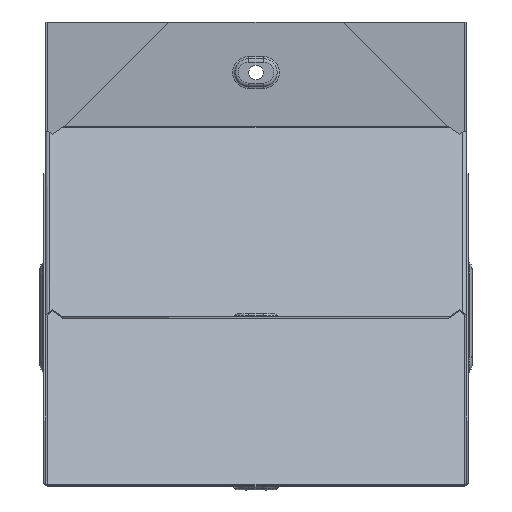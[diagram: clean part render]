
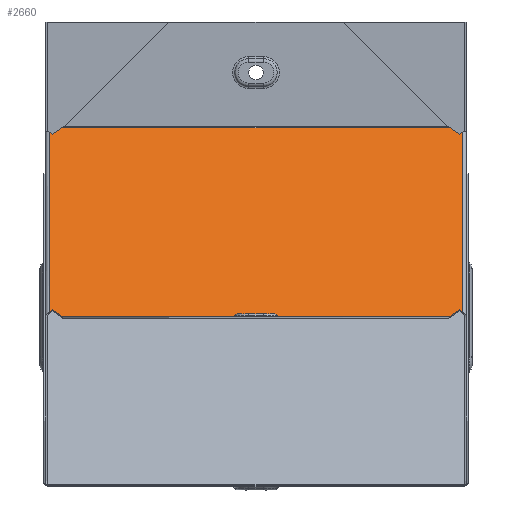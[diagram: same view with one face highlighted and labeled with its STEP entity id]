
A CAD part, front view. The second image highlights one B-rep face of the part: STEP entity #2660.
In plain terms, the highlighted planar face has unit normal (0, -0.707, 0.707).
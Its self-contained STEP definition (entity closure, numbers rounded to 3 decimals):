
#107 = LINE ( 'NONE', #6194, #894 ) ;
#227 = LINE ( 'NONE', #5780, #1912 ) ;
#281 = DIRECTION ( 'NONE',  ( -0.707, -0.5, -0.5 ) ) ;
#322 = EDGE_LOOP ( 'NONE', ( #4151, #2457, #3748, #3824, #2782, #2393, #6978, #5563, #5704, #5831, #2704, #7515 ) ) ;
#511 = CARTESIAN_POINT ( 'NONE',  ( 92.181, -19.707, -69.707 ) ) ;
#611 = LINE ( 'NONE', #3172, #5500 ) ;
#633 = LINE ( 'NONE', #8142, #1924 ) ;
#672 = DIRECTION ( 'NONE',  ( -1., 0., 0. ) ) ;
#894 = VECTOR ( 'NONE', #5572, 1000. ) ;
#908 = AXIS2_PLACEMENT_3D ( 'NONE', #5554, #6119, #6751 ) ;
#975 = VERTEX_POINT ( 'NONE', #2876 ) ;
#1084 = CARTESIAN_POINT ( 'NONE',  ( -96.592, 66.588, 16.588 ) ) ;
#1089 = PLANE ( 'NONE',  #908 ) ;
#1105 = CARTESIAN_POINT ( 'NONE',  ( -96.592, -16.588, -66.588 ) ) ;
#1297 = EDGE_CURVE ( 'NONE', #6496, #4744, #5458, .T. ) ;
#1320 = EDGE_CURVE ( 'NONE', #6496, #6171, #2548, .T. ) ;
#1508 = VECTOR ( 'NONE', #3317, 1000. ) ;
#1662 = CARTESIAN_POINT ( 'NONE',  ( -41.546, -55.512, -105.512 ) ) ;
#1912 = VECTOR ( 'NONE', #672, 1000. ) ;
#1924 = VECTOR ( 'NONE', #2371, 1000. ) ;
#2120 = LINE ( 'NONE', #7009, #4218 ) ;
#2371 = DIRECTION ( 'NONE',  ( 0.707, -0.5, -0.5 ) ) ;
#2393 = ORIENTED_EDGE ( 'NONE', *, *, #8237, .T. ) ;
#2454 = DIRECTION ( 'NONE',  ( -0.707, 0.5, 0.5 ) ) ;
#2457 = ORIENTED_EDGE ( 'NONE', *, *, #3879, .T. ) ;
#2548 = LINE ( 'NONE', #3338, #3733 ) ;
#2610 = DIRECTION ( 'NONE',  ( 0.707, 0.5, 0.5 ) ) ;
#2646 = CARTESIAN_POINT ( 'NONE',  ( 41.546, 105.512, 55.512 ) ) ;
#2658 = CARTESIAN_POINT ( 'NONE',  ( 96.592, -16.588, -66.588 ) ) ;
#2660 = ADVANCED_FACE ( 'NONE', ( #4339 ), #1089, .F. ) ;
#2704 = ORIENTED_EDGE ( 'NONE', *, *, #6552, .T. ) ;
#2782 = ORIENTED_EDGE ( 'NONE', *, *, #6584, .T. ) ;
#2876 = CARTESIAN_POINT ( 'NONE',  ( 98.2, -17.724, -67.724 ) ) ;
#3008 = EDGE_CURVE ( 'NONE', #4845, #7096, #3295, .T. ) ;
#3172 = CARTESIAN_POINT ( 'NONE',  ( 98.2, 70., 20. ) ) ;
#3295 = LINE ( 'NONE', #4668, #5628 ) ;
#3317 = DIRECTION ( 'NONE',  ( -0.707, 0.5, 0.5 ) ) ;
#3338 = CARTESIAN_POINT ( 'NONE',  ( 41.546, -55.512, -105.512 ) ) ;
#3542 = DIRECTION ( 'NONE',  ( -0.707, -0.5, -0.5 ) ) ;
#3596 = CARTESIAN_POINT ( 'NONE',  ( -41.546, 105.512, 55.512 ) ) ;
#3682 = EDGE_CURVE ( 'NONE', #7527, #4666, #227, .T. ) ;
#3686 = LINE ( 'NONE', #2646, #1508 ) ;
#3733 = VECTOR ( 'NONE', #2610, 1000. ) ;
#3748 = ORIENTED_EDGE ( 'NONE', *, *, #3682, .T. ) ;
#3764 = DIRECTION ( 'NONE',  ( 0., -0.707, -0.707 ) ) ;
#3819 = VECTOR ( 'NONE', #5470, 1000. ) ;
#3824 = ORIENTED_EDGE ( 'NONE', *, *, #5424, .T. ) ;
#3879 = EDGE_CURVE ( 'NONE', #7096, #7527, #3686, .T. ) ;
#4087 = VECTOR ( 'NONE', #4602, 1000. ) ;
#4151 = ORIENTED_EDGE ( 'NONE', *, *, #3008, .T. ) ;
#4195 = EDGE_CURVE ( 'NONE', #5010, #4744, #4306, .T. ) ;
#4218 = VECTOR ( 'NONE', #2454, 1000. ) ;
#4306 = LINE ( 'NONE', #1662, #4087 ) ;
#4339 = FACE_OUTER_BOUND ( 'NONE', #322, .T. ) ;
#4356 = VECTOR ( 'NONE', #6544, 1000. ) ;
#4455 = CARTESIAN_POINT ( 'NONE',  ( -98.2, -17.724, -67.724 ) ) ;
#4602 = DIRECTION ( 'NONE',  ( 0.707, -0.5, -0.5 ) ) ;
#4645 = EDGE_CURVE ( 'NONE', #4845, #975, #611, .T. ) ;
#4666 = VERTEX_POINT ( 'NONE', #8183 ) ;
#4668 = CARTESIAN_POINT ( 'NONE',  ( 100.299, 69.208, 19.208 ) ) ;
#4744 = VERTEX_POINT ( 'NONE', #6485 ) ;
#4764 = CARTESIAN_POINT ( 'NONE',  ( 98.2, 67.724, 17.724 ) ) ;
#4773 = CARTESIAN_POINT ( 'NONE',  ( -98.2, 67.724, 17.724 ) ) ;
#4845 = VERTEX_POINT ( 'NONE', #4764 ) ;
#4848 = CARTESIAN_POINT ( 'NONE',  ( -98.2, 70., 20. ) ) ;
#5010 = VERTEX_POINT ( 'NONE', #1105 ) ;
#5023 = EDGE_CURVE ( 'NONE', #5654, #5010, #107, .T. ) ;
#5038 = VECTOR ( 'NONE', #3542, 1000. ) ;
#5054 = CARTESIAN_POINT ( 'NONE',  ( 92.181, 69.707, 19.707 ) ) ;
#5077 = VERTEX_POINT ( 'NONE', #1084 ) ;
#5174 = CARTESIAN_POINT ( 'NONE',  ( 98.2, -19.707, -69.707 ) ) ;
#5424 = EDGE_CURVE ( 'NONE', #4666, #5077, #7837, .T. ) ;
#5445 = VERTEX_POINT ( 'NONE', #4773 ) ;
#5458 = LINE ( 'NONE', #5174, #4356 ) ;
#5470 = DIRECTION ( 'NONE',  ( 0., -0.707, -0.707 ) ) ;
#5500 = VECTOR ( 'NONE', #3764, 1000. ) ;
#5543 = LINE ( 'NONE', #4848, #3819 ) ;
#5554 = CARTESIAN_POINT ( 'NONE',  ( 98.2, 70., 20. ) ) ;
#5563 = ORIENTED_EDGE ( 'NONE', *, *, #4195, .T. ) ;
#5572 = DIRECTION ( 'NONE',  ( 0.707, 0.5, 0.5 ) ) ;
#5628 = VECTOR ( 'NONE', #281, 1000. ) ;
#5654 = VERTEX_POINT ( 'NONE', #4455 ) ;
#5704 = ORIENTED_EDGE ( 'NONE', *, *, #1297, .F. ) ;
#5780 = CARTESIAN_POINT ( 'NONE',  ( 98.2, 69.707, 19.707 ) ) ;
#5831 = ORIENTED_EDGE ( 'NONE', *, *, #1320, .T. ) ;
#6119 = DIRECTION ( 'NONE',  ( 0., 0.707, -0.707 ) ) ;
#6171 = VERTEX_POINT ( 'NONE', #2658 ) ;
#6194 = CARTESIAN_POINT ( 'NONE',  ( -100.299, -19.208, -69.208 ) ) ;
#6485 = CARTESIAN_POINT ( 'NONE',  ( -92.181, -19.707, -69.707 ) ) ;
#6496 = VERTEX_POINT ( 'NONE', #511 ) ;
#6544 = DIRECTION ( 'NONE',  ( -1., 0., 0. ) ) ;
#6552 = EDGE_CURVE ( 'NONE', #6171, #975, #633, .T. ) ;
#6584 = EDGE_CURVE ( 'NONE', #5077, #5445, #2120, .T. ) ;
#6751 = DIRECTION ( 'NONE',  ( 0., 0.707, 0.707 ) ) ;
#6978 = ORIENTED_EDGE ( 'NONE', *, *, #5023, .T. ) ;
#7009 = CARTESIAN_POINT ( 'NONE',  ( -100.299, 69.208, 19.208 ) ) ;
#7096 = VERTEX_POINT ( 'NONE', #7528 ) ;
#7515 = ORIENTED_EDGE ( 'NONE', *, *, #4645, .F. ) ;
#7527 = VERTEX_POINT ( 'NONE', #5054 ) ;
#7528 = CARTESIAN_POINT ( 'NONE',  ( 96.592, 66.588, 16.588 ) ) ;
#7837 = LINE ( 'NONE', #3596, #5038 ) ;
#8142 = CARTESIAN_POINT ( 'NONE',  ( 100.299, -19.208, -69.208 ) ) ;
#8183 = CARTESIAN_POINT ( 'NONE',  ( -92.181, 69.707, 19.707 ) ) ;
#8237 = EDGE_CURVE ( 'NONE', #5445, #5654, #5543, .T. ) ;
